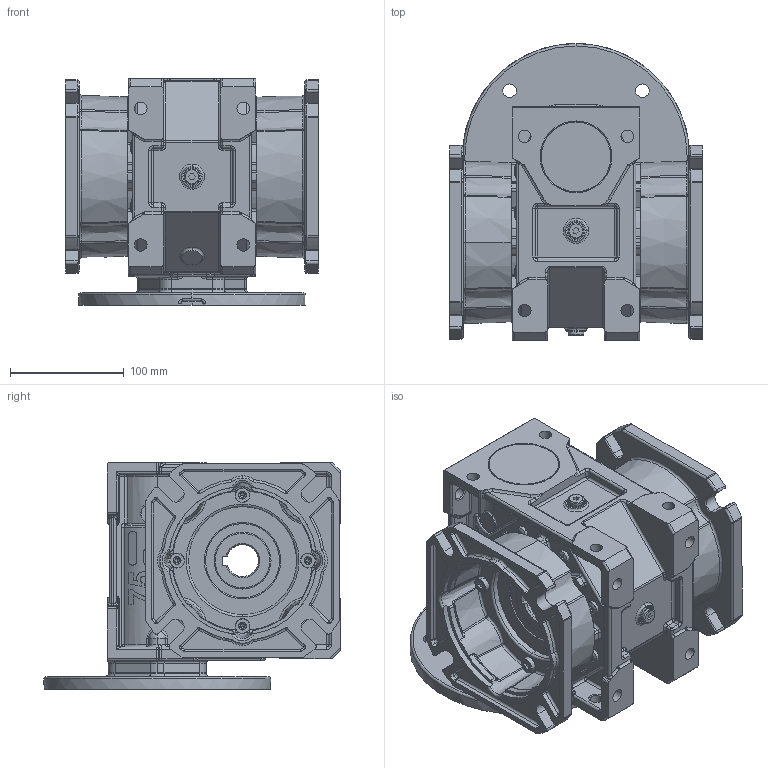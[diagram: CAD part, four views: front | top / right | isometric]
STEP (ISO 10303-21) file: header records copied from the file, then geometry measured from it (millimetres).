
FILE_DESCRIPTION (( 'STEP AP214' ), '1' );
FILE_NAME ('MKT75-FFRL-100-165.STEP', '2006-05-10T05:56:18', ( '' ), ( '' ), 'SwSTEP 2.0', 'SolidWorks 2004146', '' );
FILE_SCHEMA (( 'AUTOMOTIVE_DESIGN' ));
Length unit declared in the file: millimetre
Products named in the file (6): Pøíruba FF MKT 75_Výchozí; Skrin MKT75_MKT 75 AP100; pøíruba 165 d72 MRT80a_Výchozí; D6912_Šroub DIN 6912 - M8x25; MKT75-FFRL-100-165; D6912_Šroub DIN 6912 - M6x25
Assembly tree (18 placements, depth 2):
  MKT75-FFRL-100-165
    D6912_Šroub DIN 6912 - M6x25  x6
    D6912_Šroub DIN 6912 - M8x25  x8
    Pøíruba FF MKT 75_Výchozí  x2
    Skrin MKT75_MKT 75 AP100
    pøíruba 165 d72 MRT80a_Výchozí
Bounding box: 222 x 260.81 x 199 mm (x, y, z)
Volume: 3905130.6 mm3; surface area: 510816 mm2
Topology: 18 solids, 18 shells, 3708 faces, 8624 edges, 4830 vertices
Faces by surface type: cylinder 1302, torus 674, plane 669, bspline 397, sphere 353, cone 313
Entity records: 228262 total; most frequent: CARTESIAN_POINT 163154, DIRECTION 13806, ORIENTED_EDGE 12470, EDGE_CURVE 6235, AXIS2_PLACEMENT_3D 5876, VERTEX_POINT 3664, CIRCLE 3451, EDGE_LOOP 2867
